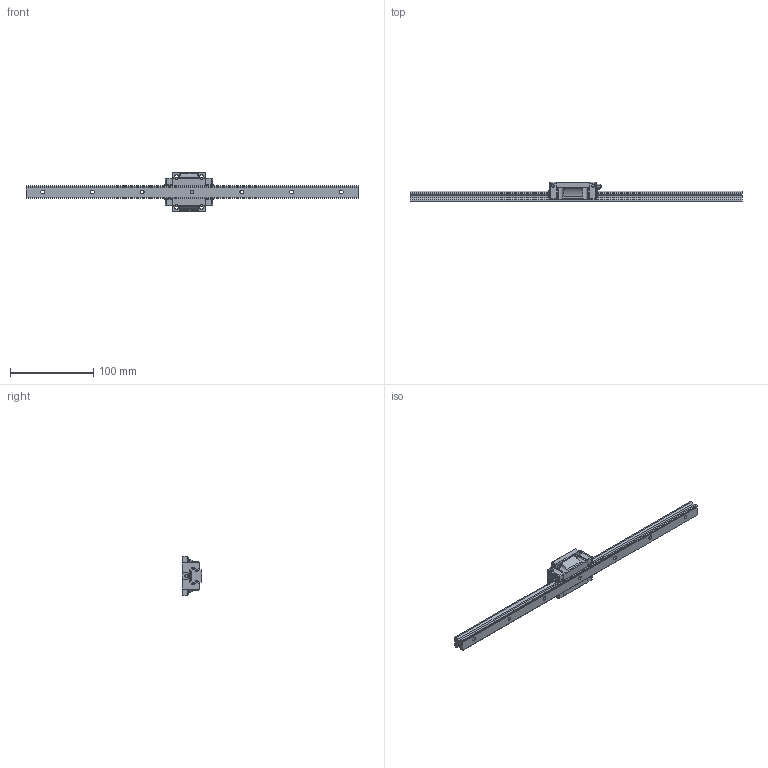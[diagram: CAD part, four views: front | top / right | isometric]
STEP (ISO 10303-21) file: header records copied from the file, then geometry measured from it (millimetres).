
FILE_DESCRIPTION (( 'STEP AP214' ), '1' );
FILE_NAME ('EGH15F.STEP', '2021-07-06T05:42:17', ( '' ), ( '' ), 'SwSTEP 2.0', 'SolidWorks 2019', '' );
FILE_SCHEMA (( 'AUTOMOTIVE_DESIGN' ));
Length unit declared in the file: millimetre
Products named in the file (4): EGH15F; EGH15Fキャリッジ; EG15ニップル; EG15レール
Assembly tree (3 placements, depth 2):
  EGH15F
    EG15レール
    EGH15Fキャリッジ
    EG15ニップル
Bounding box: 400 x 24 x 47 mm (x, y, z)
Volume: 102150.9 mm3; surface area: 39699.9 mm2
Topology: 7 solids, 7 shells, 504 faces, 1425 edges, 944 vertices
Faces by surface type: plane 339, cylinder 151, cone 12, sphere 2
Full cylindrical faces by diameter (mm): 4.5 x7, 7.5 x7
Entity records: 21828 total; most frequent: CARTESIAN_POINT 3033, ORIENTED_EDGE 2814, DIRECTION 2708, EDGE_CURVE 1407, VECTOR 1070, LINE 1070, VERTEX_POINT 944, AXIS2_PLACEMENT_3D 819
